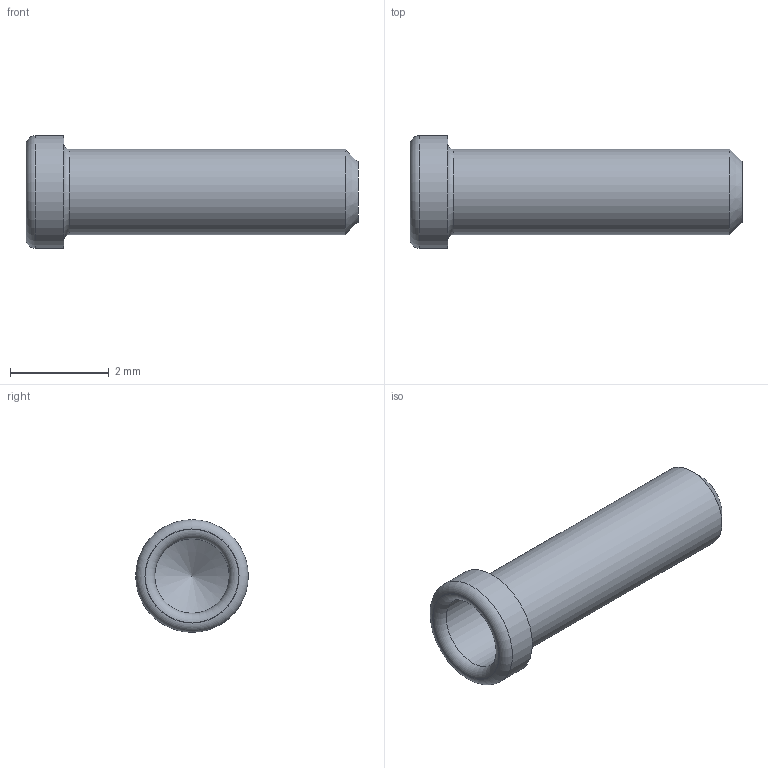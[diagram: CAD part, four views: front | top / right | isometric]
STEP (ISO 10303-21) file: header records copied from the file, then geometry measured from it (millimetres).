
FILE_DESCRIPTION(/* description */ (''),/* implementation_level */ '2;1');
FILE_NAME(/* name */ '\\Snap1\dwgs\Customer 3D Models\450\450-7004 Customer model.stp',/* time_stamp */ '2016-12-21T12:30:07+00:00',/* author */ ('paulk'),/* organization */ (''),/* preprocessor_version */ 'ST-DEVELOPER v15.2',/* originating_system */ 'Autodesk Inventor 2014',/* authorisation */ '');
FILE_SCHEMA (('CONFIG_CONTROL_DESIGN'));
Length unit declared in the file: millimetre
Products named in the file (1): 450-7004 Customer model
Bounding box: 6.73 x 2.29 x 2.29 mm (x, y, z)
Volume: 7.6 mm3; surface area: 68 mm2
Topology: 1 solids, 1 shells, 11 faces, 19 edges, 11 vertices
Faces by surface type: torus 3, plane 3, cylinder 3, cone 2
Full cylindrical faces by diameter (mm): 1.511 x1, 1.727 x1, 2.286 x1
Entity records: 235 total; most frequent: DIRECTION 44, CARTESIAN_POINT 32, AXIS2_PLACEMENT_3D 22, EDGE_LOOP 20, ORIENTED_EDGE 20, ADVANCED_FACE 11, FACE_BOUND 10, FACE_OUTER_BOUND 10
